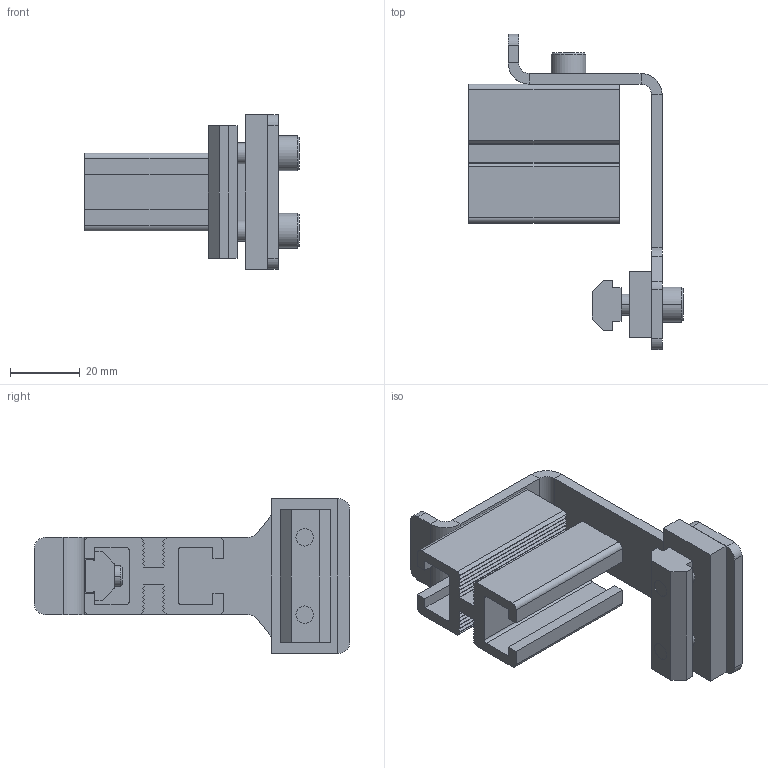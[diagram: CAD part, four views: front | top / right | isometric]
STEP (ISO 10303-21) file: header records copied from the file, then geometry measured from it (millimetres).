
FILE_DESCRIPTION (( 'STEP AP203' ), '1' );
FILE_NAME ('207137-02.STEP', '2023-03-01T21:14:52', ( '' ), ( '' ), 'SwSTEP 2.0', 'SolidWorks 2020', '' );
FILE_SCHEMA (( 'CONFIG_CONTROL_DESIGN' ));
Length unit declared in the file: inch
Products named in the file (8): 639971M_CAE; 207134; 202444; 9206XXM_920620M; 200626M; 207137-02; 9206XXM_920614M; 207135-WW_207135-02
Assembly tree (8 placements, depth 2):
  207137-02
    207134
    207135-WW_207135-02
    202444
    200626M
    639971M_CAE
    9206XXM_920614M
    9206XXM_920620M  x2
Bounding box: 61.58 x 90.68 x 44.45 mm (x, y, z)
Volume: 39968.4 mm3; surface area: 26752.6 mm2
Topology: 8 solids, 8 shells, 261 faces, 653 edges, 414 vertices
Faces by surface type: plane 170, cylinder 58, cone 33
Entity records: 8104 total; most frequent: CARTESIAN_POINT 1367, DIRECTION 1216, ORIENTED_EDGE 1212, EDGE_CURVE 606, VECTOR 462, LINE 462, VERTEX_POINT 388, AXIS2_PLACEMENT_3D 377
